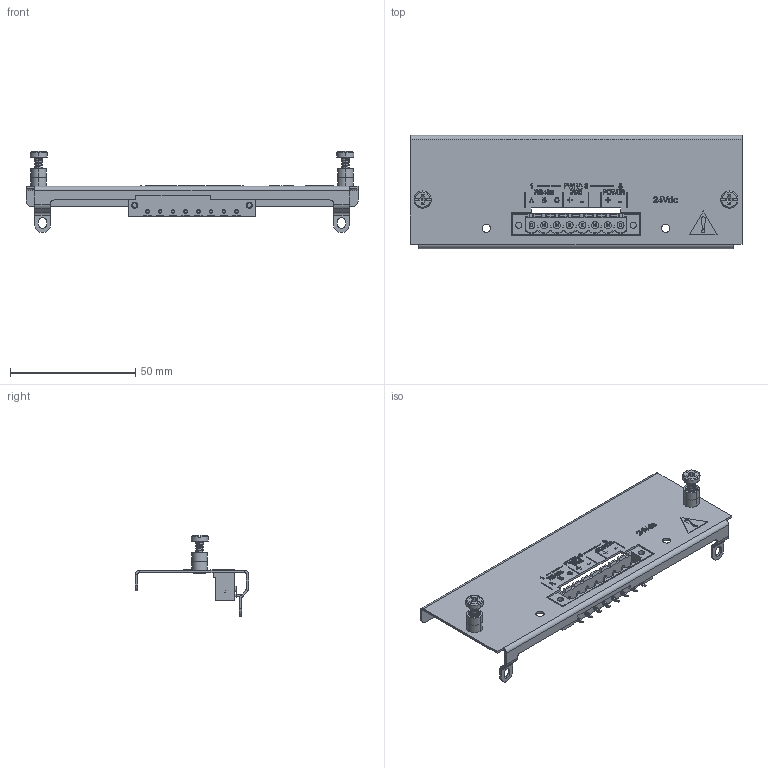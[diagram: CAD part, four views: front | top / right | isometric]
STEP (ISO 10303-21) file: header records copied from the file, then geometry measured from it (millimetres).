
FILE_DESCRIPTION(/* description */ (''),/* implementation_level */ '2;1');
FILE_NAME(/* name */ 'C:\Users\jondi\Desktop\FLEX 3D STP\PWRA-3.stp',/* time_stamp */ '2021-03-11T08:10:15-06:00',/* author */ ('jondi'),/* organization */ (''),/* preprocessor_version */ 'ST-DEVELOPER v17.2',/* originating_system */ 'Autodesk Inventor 2019',/* authorisation */ '');
FILE_SCHEMA (('AUTOMOTIVE_DESIGN { 1 0 10303 214 3 1 1 }'));
Length unit declared in the file: inch
Products named in the file (7): PWRA-3; 9579230102; 9579200013; 9579200013_1; 44090; 44086; 9579200057
Assembly tree (7 placements, depth 4):
  PWRA-3
    9579230102
      9579200013
        9579200013_1
      44090  x2
    44086
    9579200057
Bounding box: 132.59 x 45.21 x 32.36 mm (x, y, z)
Volume: 9667.1 mm3; surface area: 19357.7 mm2
Topology: 50 solids, 50 shells, 1646 faces, 4000 edges, 2521 vertices
Faces by surface type: plane 1259, bspline 195, cylinder 118, cone 62, sphere 8, torus 4
Full cylindrical faces by diameter (mm): 0.434 x1, 1.4 x8, 1.8 x2, 2.4 x2, 2.5 x2, 2.8 x7, 3.353 x2, 4.826 x2
Entity records: 49329 total; most frequent: CARTESIAN_POINT 12959, ORIENTED_EDGE 7556, DIRECTION 6503, EDGE_CURVE 3778, LINE 2929, VECTOR 2929, VERTEX_POINT 2395, AXIS2_PLACEMENT_3D 1787
